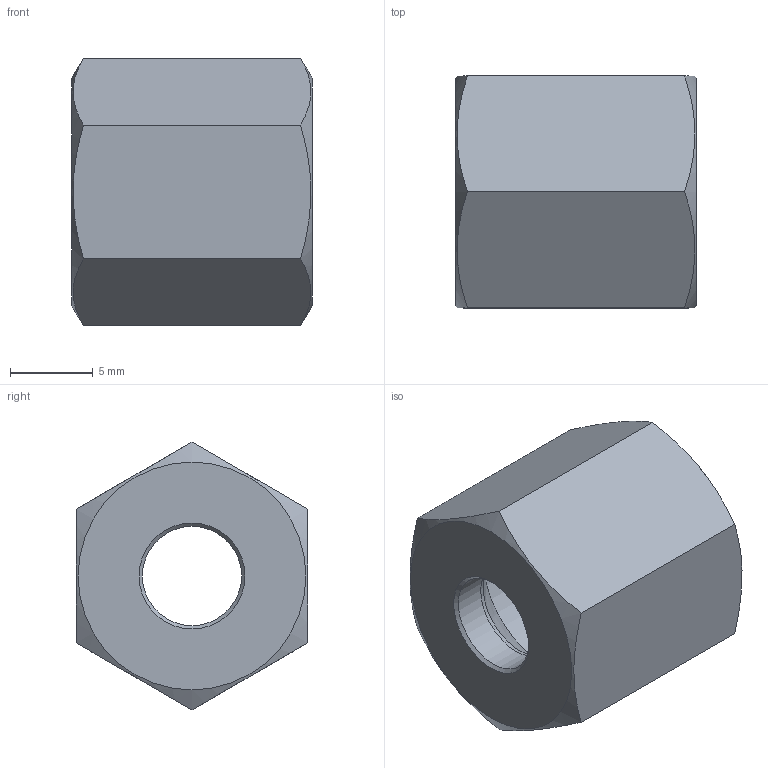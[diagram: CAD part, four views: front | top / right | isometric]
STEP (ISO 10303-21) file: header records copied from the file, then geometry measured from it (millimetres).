
FILE_DESCRIPTION( ( 'Unknown' ), '1' );
FILE_NAME( 'C:/Users/p.nanko/Desktop/3D SR/M06L.stp', 'Unknown', ( 'Peter Nanko' ), ( 'Armaturen Arndt' ), 'PSStep 14.0', 'Solid Edge ST4', ' ' );
FILE_SCHEMA( ( 'AUTOMOTIVE_DESIGN { 1 0 10303 214 1 1 1 1 }' ) );
Length unit declared in the file: millimetre
Products named in the file (1): 1
Bounding box: 14.5 x 14 x 16.17 mm (x, y, z)
Volume: 1419 mm3; surface area: 1346.2 mm2
Topology: 1 solids, 1 shells, 17 faces, 39 edges, 24 vertices
Faces by surface type: plane 8, cone 6, cylinder 3
Full cylindrical faces by diameter (mm): 6 x1, 10.376 x2
Entity records: 668 total; most frequent: CARTESIAN_POINT 192, DIRECTION 62, ORIENTED_EDGE 56, AXIS2_PLACEMENT_3D 28, EDGE_LOOP 28, EDGE_CURVE 28, VERTEX_POINT 22, FACE_OUTER_BOUND 20
